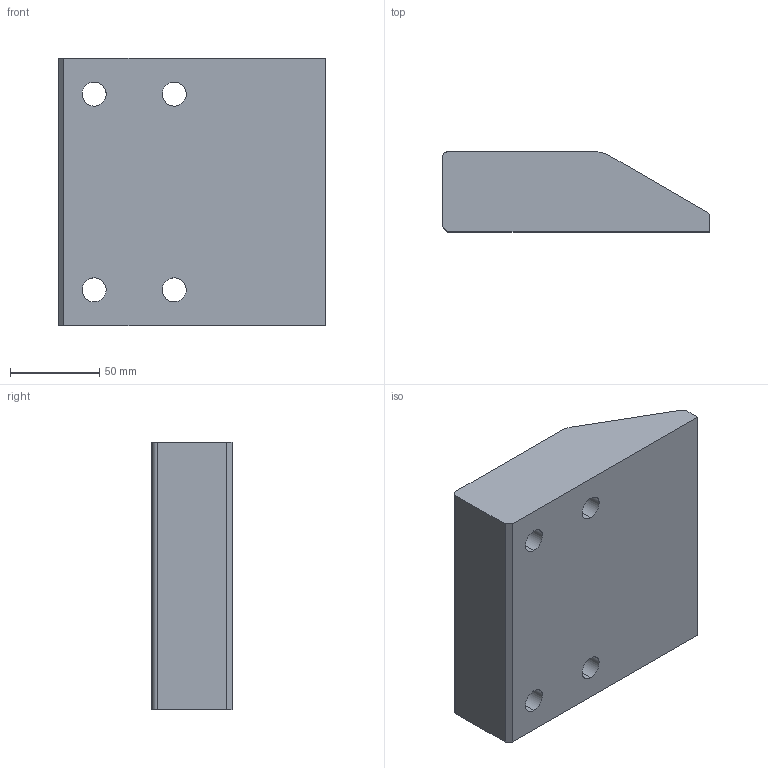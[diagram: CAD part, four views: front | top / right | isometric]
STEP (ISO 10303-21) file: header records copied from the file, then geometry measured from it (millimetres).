
FILE_DESCRIPTION(('CATIA V5 STEP Exchange'),'2;1');
FILE_NAME('C:\Users\Raffaele\Desktop\3D X SITO CF\A935\GSB_OILLESS_G2290115015045\STEP-2.03\A935-15015045.stp','2019-07-12T07:41:26+00:00',('none'),('none'),'CATIA Version 5 Release 20 GA (IN-10)','CATIA V5 STEP AP203','none');
FILE_SCHEMA(('CONFIG_CONTROL_DESIGN'));
Length unit declared in the file: millimetre
Products named in the file (1): A935-15015045
Bounding box: 150 x 45 x 150 mm (x, y, z)
Volume: 808565.2 mm3; surface area: 74200.1 mm2
Topology: 1 solids, 1 shells, 39 faces, 131 edges, 98 vertices
Faces by surface type: cylinder 19, plane 12, torus 8
Entity records: 1691 total; most frequent: CARTESIAN_POINT 493, ORIENTED_EDGE 262, DIRECTION 193, EDGE_CURVE 131, AXIS2_PLACEMENT_3D 118, VERTEX_POINT 98, CIRCLE 78, EDGE_LOOP 51
